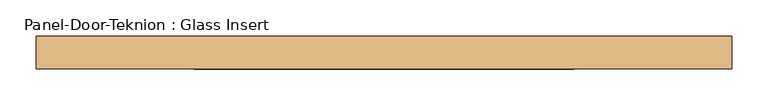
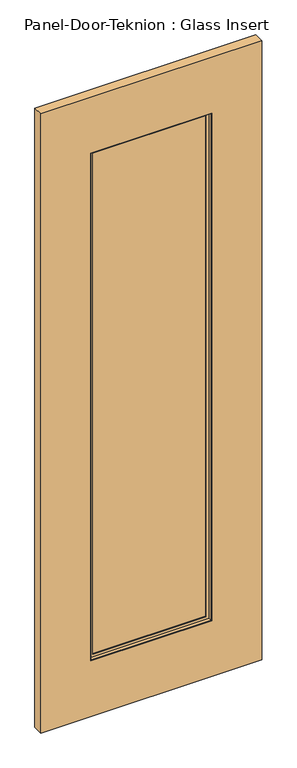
"""IFC4 building model written with IfcOpenShell, lengths in millimetres: door geometry, Panel-Door-Teknion : Glass Insert."""

from ifc_helpers import new_model, si_unit, frame, origin, place, context, project, spatial, polyline, outline, extrude, faceted_brep, source, transform, mapped, element, save


def panel_door_teknion_glass_insert_d14ac338(model_context):
    return source(origin(), model_context, "Body", "SolidModel", [
        extrude(outline(polyline([(260.3301563, 3.175), (260.3301563, -3.175), (-260.3301562, -3.175), (-260.3301562, 3.175), (260.3301563, 3.175)])), frame((0.0, 0.0, 266.7), z_axis=(0.0, 0.0, 1.0), x_axis=(1.0, 0.0, 0.0)), (0.0, 0.0, 1.0), 2315.2025997),
        faceted_brep([(-244.4395773, -3.797467, 2566.0120207), (-244.4395773, -6.9755828, 2566.0120207), (-244.4395773, -6.9755828, 282.590579), (-244.4395773, -3.797467, 282.590579), (244.4395773, -6.9755828, 282.590579), (244.4395773, -3.797467, 282.590579), (257.1520405, -6.9755828, 269.8781158), (257.1520405, -6.9755828, 2578.7244839), (-257.1520405, -6.9755828, 2578.7244839), (-257.1520405, -6.9755828, 269.8781158), (244.4395773, -6.9755828, 2566.0120207), (244.4395773, -3.797467, 2566.0120207), (-260.3301562, -3.797467, 266.7), (-260.3301562, -3.797467, 2581.9025997), (260.3301563, -3.797467, 2581.9025997), (260.3301563, -3.797467, 266.7), (-260.3301562, -19.688046, 2581.9025997), (-260.3301562, -19.688046, 266.7), (260.3301563, -19.688046, 266.7), (260.3301563, -19.688046, 2581.9025997), (-257.1520405, -19.688046, 269.8781158), (-257.1520405, -19.688046, 2578.7244839), (257.1520405, -19.688046, 2578.7244839), (257.1520405, -19.688046, 269.8781158)], [[[0, 1, 2, 3]], [[3, 2, 4, 5]], [[6, 7, 8, 9], [2, 1, 10, 4]], [[5, 4, 10, 11]], [[12, 13, 14, 15], [5, 11, 0, 3]], [[16, 13, 12, 17]], [[17, 12, 15, 18]], [[18, 15, 14, 19]], [[18, 19, 16, 17], [20, 21, 22, 23]], [[8, 21, 20, 9]], [[9, 20, 23, 6]], [[6, 23, 22, 7]], [[11, 10, 1, 0]], [[19, 14, 13, 16]], [[7, 22, 21, 8]]]),
        faceted_brep([(-257.1520405, 19.688046, 2578.7244839), (-257.1520405, 6.9755828, 2578.7244839), (-257.1520405, 6.9755828, 269.8781158), (-257.1520405, 19.688046, 269.8781158), (257.1520405, 6.9755828, 269.8781158), (257.1520405, 19.688046, 269.8781158), (257.1520405, 6.9755828, 2578.7244839), (244.4395773, 6.9755828, 282.590579), (244.4395773, 6.9755828, 2566.0120207), (-244.4395773, 6.9755828, 2566.0120207), (-244.4395773, 6.9755828, 282.590579), (257.1520405, 19.688046, 2578.7244839), (-260.3301562, 19.688046, 266.7), (-260.3301562, 19.688046, 2581.9025997), (260.3301563, 19.688046, 2581.9025997), (260.3301563, 19.688046, 266.7), (-260.3301562, 3.797467, 2581.9025997), (-260.3301562, 3.797467, 266.7), (260.3301563, 3.797467, 266.7), (260.3301563, 3.797467, 2581.9025997), (-244.4395773, 3.797467, 282.590579), (-244.4395773, 3.797467, 2566.0120207), (244.4395773, 3.797467, 2566.0120207), (244.4395773, 3.797467, 282.590579)], [[[0, 1, 2, 3]], [[3, 2, 4, 5]], [[2, 1, 6, 4], [7, 8, 9, 10]], [[5, 4, 6, 11]], [[12, 13, 14, 15], [5, 11, 0, 3]], [[16, 13, 12, 17]], [[17, 12, 15, 18]], [[18, 15, 14, 19]], [[18, 19, 16, 17], [20, 21, 22, 23]], [[9, 21, 20, 10]], [[10, 20, 23, 7]], [[7, 23, 22, 8]], [[11, 6, 1, 0]], [[19, 14, 13, 16]], [[8, 22, 21, 9]]]),
        extrude(outline(polyline([(2835.9025997, 476.2301563), (2835.9025997, -476.2301562), (12.7, -476.2301562), (12.7, 476.2301563), (2835.9025997, 476.2301563)]), holes=[polyline([(2581.9025997, -260.3301562), (2581.9025997, 260.3301563), (266.7, 260.3301563), (266.7, -260.3301562), (2581.9025997, -260.3301562)])]), frame((0.0, -22.225, 0.0), z_axis=(0.0, 1.0, 0.0), x_axis=(0.0, 0.0, 1.0)), (0.0, 0.0, 1.0), 44.45),
    ])


if __name__ == "__main__":
    model = new_model("IFC4")
    model_context = context("Model", 3, world=origin())
    ifc_project = project(units=[si_unit("LENGTHUNIT", "METRE", prefix="MILLI")], contexts=[model_context])
    site = spatial("IfcSite", under=ifc_project)
    building = spatial("IfcBuilding", under=site)
    placement = place(None, origin())
    panel_door_teknion_glass_insert_shape = panel_door_teknion_glass_insert_d14ac338(model_context)
    element("IfcDoor", 1, ObjectType="Panel-Door-Teknion : Glass Insert", at=placement, inside=building, context=model_context, shape_type="MappedRepresentation", body=[
        mapped(panel_door_teknion_glass_insert_shape, transform((0.0, 0.0, 0.0), x_axis=(1.0, 0.0, 0.0), y_axis=(0.0, 1.0, 0.0), z_axis=(0.0, 0.0, 1.0))),
    ])
    save(model, "model.ifc")
